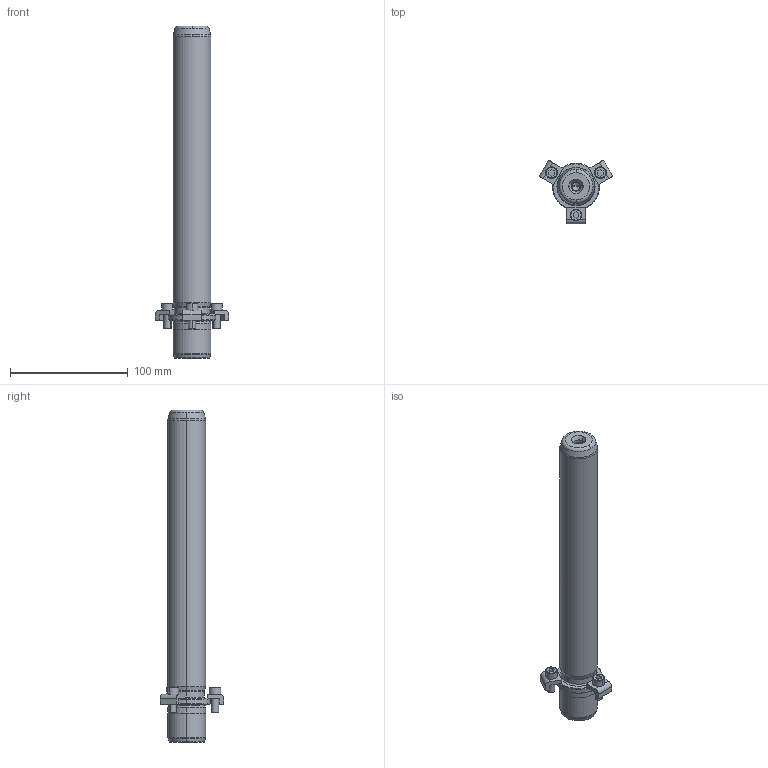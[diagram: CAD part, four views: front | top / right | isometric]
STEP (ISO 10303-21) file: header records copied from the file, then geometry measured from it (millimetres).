
FILE_DESCRIPTION((''),'2;1');
FILE_NAME('P21_032_250.stp','2008-12-23T10:35:26',(''),(''),'Mechanical Desktop 2009','Mechanical Desktop 2009',', , ');
FILE_SCHEMA(('CONFIG_CONTROL_DESIGN'));
Length unit declared in the file: millimetre
Products named in the file (2): Product; blmdl1
Assembly tree (1 placements, depth 2):
  Product
    blmdl1
Bounding box: 62.51 x 54.13 x 282 mm (x, y, z)
Volume: 230188.7 mm3; surface area: 36235.1 mm2
Topology: 7 solids, 7 shells, 163 faces, 399 edges, 257 vertices
Faces by surface type: plane 59, cylinder 44, cone 32, torus 14, bspline 14
Entity records: 5517 total; most frequent: CARTESIAN_POINT 1433, DIRECTION 908, ORIENTED_EDGE 790, EDGE_CURVE 395, AXIS2_PLACEMENT_3D 362, VERTEX_POINT 257, CIRCLE 211, VECTOR 184
